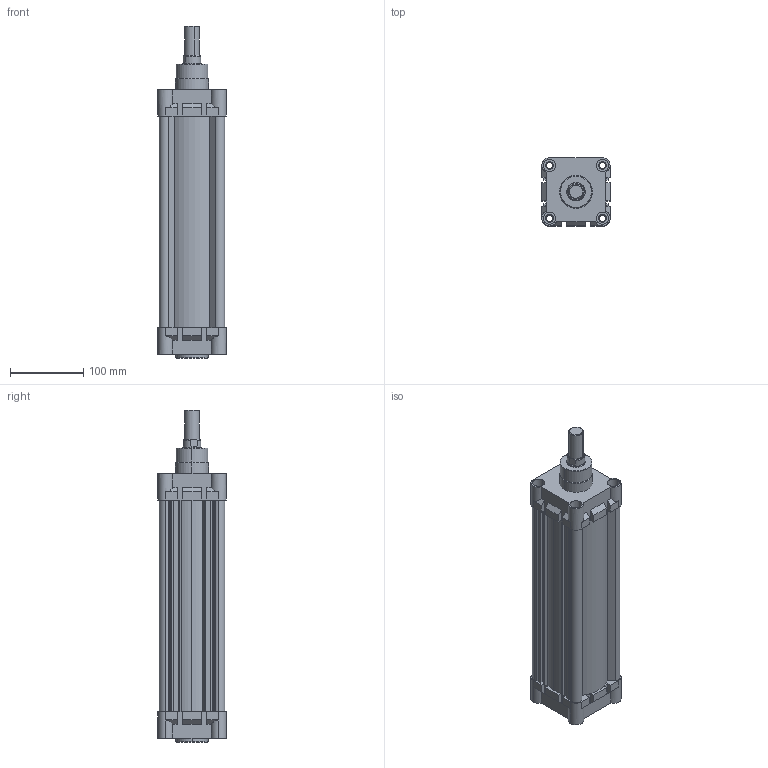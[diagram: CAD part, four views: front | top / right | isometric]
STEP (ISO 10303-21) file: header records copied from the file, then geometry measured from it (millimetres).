
FILE_DESCRIPTION (( 'STEP AP214' ), '1' );
FILE_NAME ('RIC_80_250_WEB.STEP', '2020-09-23T07:59:58', ( '' ), ( '' ), 'SwSTEP 2.0', 'SolidWorks 2018', '' );
FILE_SCHEMA (( 'AUTOMOTIVE_DESIGN' ));
Length unit declared in the file: millimetre
Products named in the file (5): RIC_80_250_WEB; RIC_80_BORU_WEB; RIC_80_ARKA_KAPAK_WEB; RIC_80_MIL_WEB; RIC_80_ONKAPAK_WEB
Assembly tree (4 placements, depth 2):
  RIC_80_250_WEB
    RIC_80_ARKA_KAPAK_WEB
    RIC_80_BORU_WEB
    RIC_80_ONKAPAK_WEB
    RIC_80_MIL_WEB
Bounding box: 93 x 93 x 452.6 mm (x, y, z)
Volume: 1128852.6 mm3; surface area: 336875.1 mm2
Topology: 4 solids, 4 shells, 468 faces, 1241 edges, 819 vertices
Faces by surface type: plane 246, cylinder 161, bspline 44, cone 11, torus 6
Entity records: 19109 total; most frequent: CARTESIAN_POINT 5717, ORIENTED_EDGE 2482, DIRECTION 2302, EDGE_CURVE 1241, VERTEX_POINT 819, LINE 790, VECTOR 790, AXIS2_PLACEMENT_3D 756
